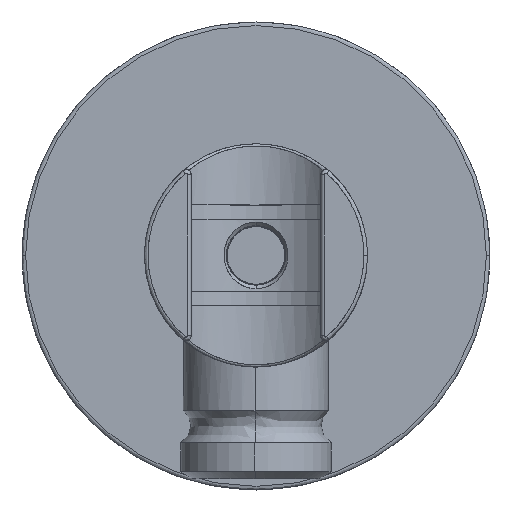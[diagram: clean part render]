
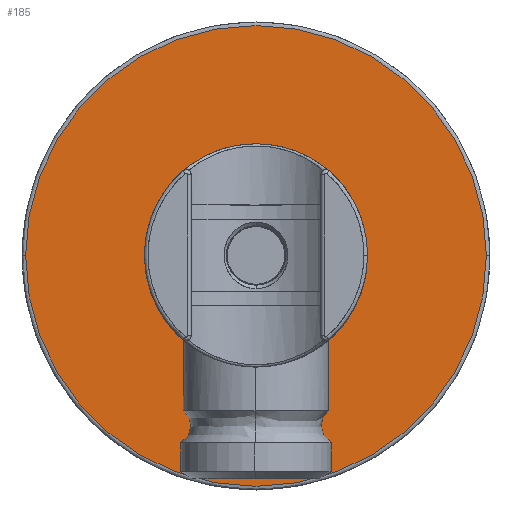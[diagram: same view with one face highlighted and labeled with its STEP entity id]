
A CAD part, top view. The second image highlights one B-rep face of the part: STEP entity #185.
In plain terms, the highlighted planar face has unit normal (0, 0, 1).
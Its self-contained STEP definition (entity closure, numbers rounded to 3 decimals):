
#68=CARTESIAN_POINT('',(-68.,0.0,6.));
#69=VERTEX_POINT('',#68);
#77=CARTESIAN_POINT('',(-132.0,0.0,6.));
#78=VERTEX_POINT('',#77);
#79=CARTESIAN_POINT('',(-100.0,0.0,6.));
#80=DIRECTION('',(0.0,0.0,1.0));
#81=DIRECTION('',(-1.0,0.,0.0));
#82=AXIS2_PLACEMENT_3D('',#79,#80,#81);
#83=CIRCLE('',#82,32.);
#84=EDGE_CURVE('',#78,#69,#83,.T.);
#119=CARTESIAN_POINT('',(-100.0,0.0,6.));
#120=DIRECTION('',(0.0,0.0,1.0));
#121=DIRECTION('',(1.0,0.0,0.0));
#122=AXIS2_PLACEMENT_3D('',#119,#120,#121);
#123=CIRCLE('',#122,32.);
#124=EDGE_CURVE('',#69,#78,#123,.T.);
#156=CARTESIAN_POINT('',(-139.,39.,6.0));
#157=DIRECTION('',(0.0,0.0,-1.0));
#158=DIRECTION('',(1.0,0.0,0.0));
#159=AXIS2_PLACEMENT_3D('',#156,#157,#158);
#160=PLANE('',#159);
#161=ORIENTED_EDGE('',*,*,#124,.T.);
#162=ORIENTED_EDGE('',*,*,#84,.T.);
#163=EDGE_LOOP('',(#161,#162));
#164=FACE_OUTER_BOUND('',#163,.T.);
#165=CARTESIAN_POINT('',(-110.,0.,6.0));
#166=VERTEX_POINT('',#165);
#167=CARTESIAN_POINT('',(-90.,0.0,6.));
#168=VERTEX_POINT('',#167);
#169=CARTESIAN_POINT('',(-100.0,0.0,6.));
#170=DIRECTION('',(0.0,0.0,-1.0));
#171=DIRECTION('',(-1.0,0.,0.0));
#172=AXIS2_PLACEMENT_3D('',#169,#170,#171);
#173=CIRCLE('',#172,10.);
#174=EDGE_CURVE('',#166,#168,#173,.T.);
#175=ORIENTED_EDGE('',*,*,#174,.T.);
#176=CARTESIAN_POINT('',(-100.0,0.0,6.));
#177=DIRECTION('',(0.0,0.0,-1.0));
#178=DIRECTION('',(1.0,0.0,0.0));
#179=AXIS2_PLACEMENT_3D('',#176,#177,#178);
#180=CIRCLE('',#179,10.);
#181=EDGE_CURVE('',#168,#166,#180,.T.);
#182=ORIENTED_EDGE('',*,*,#181,.T.);
#183=EDGE_LOOP('',(#175,#182));
#184=FACE_BOUND('',#183,.T.);
#185=ADVANCED_FACE('',(#164,#184),#160,.F.);
